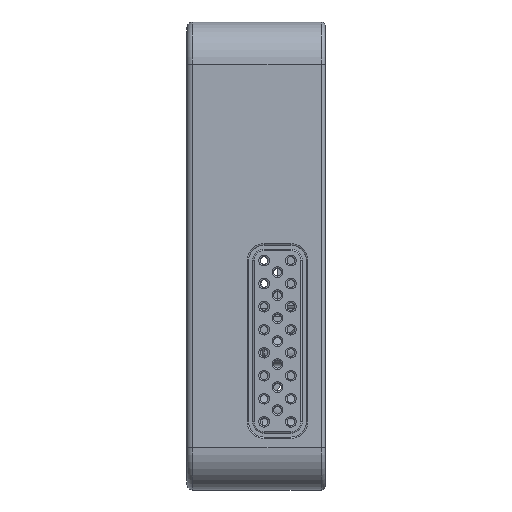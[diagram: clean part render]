
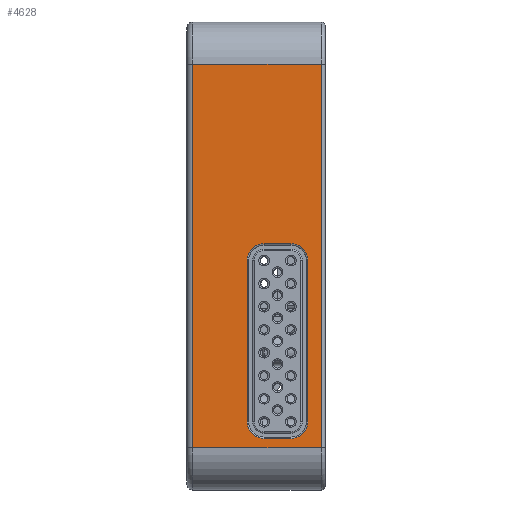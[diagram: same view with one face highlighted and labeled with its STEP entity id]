
A CAD part, left-side view. The second image highlights one B-rep face of the part: STEP entity #4628.
In plain terms, the highlighted planar face has unit normal (-1, 0, 0).
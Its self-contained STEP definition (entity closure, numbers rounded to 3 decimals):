
#798 = CARTESIAN_POINT ( 'NONE',  ( 0., 7.45, -31.1 ) ) ;
#1041 = VECTOR ( 'NONE', #1985, 1000. ) ;
#1133 = EDGE_CURVE ( 'NONE', #35620, #22060, #36025, .T. ) ;
#1145 = DIRECTION ( 'NONE',  ( 1., 0., 0. ) ) ;
#1218 = CARTESIAN_POINT ( 'NONE',  ( 0., 0., -5.5 ) ) ;
#1858 = VERTEX_POINT ( 'NONE', #32536 ) ;
#1940 = ORIENTED_EDGE ( 'NONE', *, *, #14492, .T. ) ;
#1985 = DIRECTION ( 'NONE',  ( 0., 0., 1. ) ) ;
#2122 = DIRECTION ( 'NONE',  ( 0., 0., -1. ) ) ;
#2462 = EDGE_CURVE ( 'NONE', #1858, #29489, #29695, .T. ) ;
#2491 = LINE ( 'NONE', #9084, #2639 ) ;
#2639 = VECTOR ( 'NONE', #39079, 1000. ) ;
#3063 = DIRECTION ( 'NONE',  ( 1., 0., 0. ) ) ;
#3609 = EDGE_CURVE ( 'NONE', #34867, #34664, #2491, .T. ) ;
#3977 = DIRECTION ( 'NONE',  ( 0., 0., -1. ) ) ;
#4253 = ORIENTED_EDGE ( 'NONE', *, *, #29926, .T. ) ;
#4628 = ADVANCED_FACE ( 'NONE', ( #36859, #35918 ), #9462, .F. ) ;
#6837 = DIRECTION ( 'NONE',  ( 0., -1., 0. ) ) ;
#7367 = EDGE_LOOP ( 'NONE', ( #14606, #7575, #25475, #4253 ) ) ;
#7575 = ORIENTED_EDGE ( 'NONE', *, *, #9315, .T. ) ;
#7852 = CARTESIAN_POINT ( 'NONE',  ( 0., 9.65, -31.1 ) ) ;
#8244 = VECTOR ( 'NONE', #39345, 1000. ) ;
#8413 = CIRCLE ( 'NONE', #31432, 2.2 ) ;
#8430 = AXIS2_PLACEMENT_3D ( 'NONE', #35814, #20612, #23218 ) ;
#8557 = CARTESIAN_POINT ( 'NONE',  ( 0., 16.75, 0. ) ) ;
#8602 = LINE ( 'NONE', #20793, #22078 ) ;
#9084 = CARTESIAN_POINT ( 'NONE',  ( 0., 1.75, 0. ) ) ;
#9315 = EDGE_CURVE ( 'NONE', #22060, #1858, #38754, .T. ) ;
#9462 = PLANE ( 'NONE',  #27889 ) ;
#10050 = CARTESIAN_POINT ( 'NONE',  ( 0., 7.45, -54.3 ) ) ;
#11307 = EDGE_CURVE ( 'NONE', #37486, #21082, #36852, .T. ) ;
#11481 = DIRECTION ( 'NONE',  ( 0., -1., 0. ) ) ;
#12064 = VECTOR ( 'NONE', #11481, 1000. ) ;
#12947 = CARTESIAN_POINT ( 'NONE',  ( 0., 0., -5.5 ) ) ;
#13166 = ORIENTED_EDGE ( 'NONE', *, *, #3609, .T. ) ;
#13536 = CARTESIAN_POINT ( 'NONE',  ( 0., 7.45, -52.1 ) ) ;
#14212 = VECTOR ( 'NONE', #31341, 1000. ) ;
#14492 = EDGE_CURVE ( 'NONE', #15602, #15095, #35785, .T. ) ;
#14516 = CARTESIAN_POINT ( 'NONE',  ( 0., 3.95, -28.9 ) ) ;
#14606 = ORIENTED_EDGE ( 'NONE', *, *, #1133, .T. ) ;
#15095 = VERTEX_POINT ( 'NONE', #7852 ) ;
#15307 = ORIENTED_EDGE ( 'NONE', *, *, #11307, .T. ) ;
#15602 = VERTEX_POINT ( 'NONE', #32808 ) ;
#15763 = LINE ( 'NONE', #12947, #14212 ) ;
#15989 = CARTESIAN_POINT ( 'NONE',  ( 0., 0., -55.5 ) ) ;
#16264 = ORIENTED_EDGE ( 'NONE', *, *, #31034, .T. ) ;
#16271 = VECTOR ( 'NONE', #18419, 1000. ) ;
#16408 = AXIS2_PLACEMENT_3D ( 'NONE', #33471, #3063, #27447 ) ;
#16581 = EDGE_LOOP ( 'NONE', ( #17261, #15307, #38848, #13166, #16264, #31158, #36826, #1940 ) ) ;
#17240 = VERTEX_POINT ( 'NONE', #10050 ) ;
#17261 = ORIENTED_EDGE ( 'NONE', *, *, #38296, .T. ) ;
#18419 = DIRECTION ( 'NONE',  ( 0., 1., 0. ) ) ;
#18662 = CARTESIAN_POINT ( 'NONE',  ( 0., 16.5, 0. ) ) ;
#18858 = CARTESIAN_POINT ( 'NONE',  ( 0., 16.5, -28.9 ) ) ;
#20612 = DIRECTION ( 'NONE',  ( 1., 0., 0. ) ) ;
#20740 = CARTESIAN_POINT ( 'NONE',  ( 0., 3.95, -54.3 ) ) ;
#20793 = CARTESIAN_POINT ( 'NONE',  ( 0., 16.5, -54.3 ) ) ;
#21082 = VERTEX_POINT ( 'NONE', #14516 ) ;
#22060 = VERTEX_POINT ( 'NONE', #37330 ) ;
#22078 = VECTOR ( 'NONE', #37558, 1000. ) ;
#23126 = EDGE_CURVE ( 'NONE', #17240, #15602, #28360, .T. ) ;
#23218 = DIRECTION ( 'NONE',  ( 0., 0., -1. ) ) ;
#24264 = CARTESIAN_POINT ( 'NONE',  ( 0., 16.5, -55.5 ) ) ;
#24790 = DIRECTION ( 'NONE',  ( 1., 0., 0. ) ) ;
#25274 = EDGE_CURVE ( 'NONE', #21082, #34867, #33662, .T. ) ;
#25475 = ORIENTED_EDGE ( 'NONE', *, *, #2462, .T. ) ;
#25899 = VECTOR ( 'NONE', #6837, 1000. ) ;
#26449 = AXIS2_PLACEMENT_3D ( 'NONE', #13536, #1145, #28324 ) ;
#27447 = DIRECTION ( 'NONE',  ( 0., 0., -1. ) ) ;
#27575 = CIRCLE ( 'NONE', #8430, 2.2 ) ;
#27889 = AXIS2_PLACEMENT_3D ( 'NONE', #18662, #30863, #2122 ) ;
#28324 = DIRECTION ( 'NONE',  ( 0., 0., -1. ) ) ;
#28360 = CIRCLE ( 'NONE', #26449, 2.2 ) ;
#28422 = CARTESIAN_POINT ( 'NONE',  ( 0., 1.75, -52.1 ) ) ;
#29489 = VERTEX_POINT ( 'NONE', #15989 ) ;
#29695 = LINE ( 'NONE', #24264, #12064 ) ;
#29926 = EDGE_CURVE ( 'NONE', #29489, #35620, #15763, .T. ) ;
#30863 = DIRECTION ( 'NONE',  ( 1., 0., 0. ) ) ;
#31034 = EDGE_CURVE ( 'NONE', #34664, #36156, #27575, .T. ) ;
#31158 = ORIENTED_EDGE ( 'NONE', *, *, #35883, .T. ) ;
#31341 = DIRECTION ( 'NONE',  ( 0., 0., 1. ) ) ;
#31432 = AXIS2_PLACEMENT_3D ( 'NONE', #798, #24790, #3977 ) ;
#32536 = CARTESIAN_POINT ( 'NONE',  ( 0., 16.75, -55.5 ) ) ;
#32808 = CARTESIAN_POINT ( 'NONE',  ( 0., 9.65, -52.1 ) ) ;
#33471 = CARTESIAN_POINT ( 'NONE',  ( 0., 3.95, -31.1 ) ) ;
#33662 = CIRCLE ( 'NONE', #16408, 2.2 ) ;
#34139 = CARTESIAN_POINT ( 'NONE',  ( 0., 7.45, -28.9 ) ) ;
#34161 = CARTESIAN_POINT ( 'NONE',  ( 0., 1.75, -31.1 ) ) ;
#34664 = VERTEX_POINT ( 'NONE', #28422 ) ;
#34867 = VERTEX_POINT ( 'NONE', #34161 ) ;
#35620 = VERTEX_POINT ( 'NONE', #1218 ) ;
#35785 = LINE ( 'NONE', #38786, #1041 ) ;
#35814 = CARTESIAN_POINT ( 'NONE',  ( 0., 3.95, -52.1 ) ) ;
#35883 = EDGE_CURVE ( 'NONE', #36156, #17240, #8602, .T. ) ;
#35918 = FACE_OUTER_BOUND ( 'NONE', #7367, .T. ) ;
#36025 = LINE ( 'NONE', #39214, #16271 ) ;
#36156 = VERTEX_POINT ( 'NONE', #20740 ) ;
#36826 = ORIENTED_EDGE ( 'NONE', *, *, #23126, .T. ) ;
#36852 = LINE ( 'NONE', #18858, #25899 ) ;
#36859 = FACE_BOUND ( 'NONE', #16581, .T. ) ;
#37330 = CARTESIAN_POINT ( 'NONE',  ( 0., 16.75, -5.5 ) ) ;
#37486 = VERTEX_POINT ( 'NONE', #34139 ) ;
#37558 = DIRECTION ( 'NONE',  ( 0., 1., 0. ) ) ;
#38296 = EDGE_CURVE ( 'NONE', #15095, #37486, #8413, .T. ) ;
#38754 = LINE ( 'NONE', #8557, #8244 ) ;
#38786 = CARTESIAN_POINT ( 'NONE',  ( 0., 9.65, 0. ) ) ;
#38848 = ORIENTED_EDGE ( 'NONE', *, *, #25274, .T. ) ;
#39079 = DIRECTION ( 'NONE',  ( 0., 0., -1. ) ) ;
#39214 = CARTESIAN_POINT ( 'NONE',  ( 0., 16.5, -5.5 ) ) ;
#39345 = DIRECTION ( 'NONE',  ( 0., 0., -1. ) ) ;
